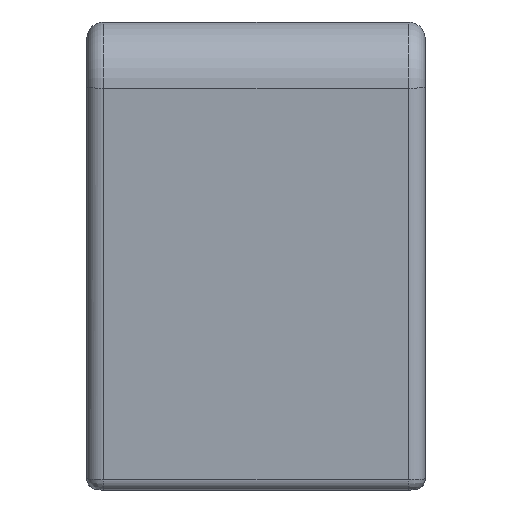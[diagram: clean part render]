
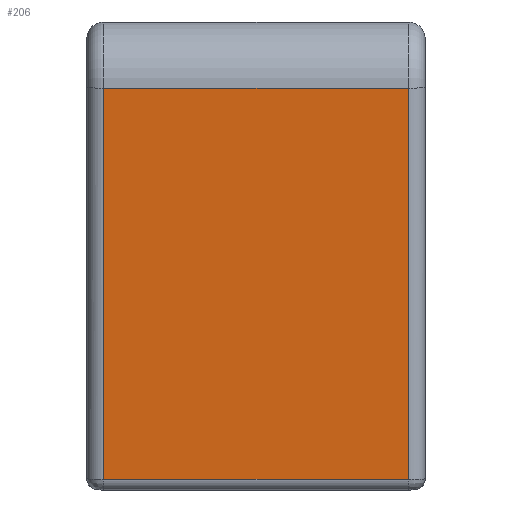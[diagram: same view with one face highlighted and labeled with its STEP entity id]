
A CAD part, left-side view. The second image highlights one B-rep face of the part: STEP entity #206.
In plain terms, the highlighted planar face has unit normal (-0.998, 0, -0.067).
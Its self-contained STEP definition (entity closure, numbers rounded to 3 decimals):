
#116 = AXIS2_PLACEMENT_3D ( 'NONE', #3349, #3346, #3344 ) ;
#206 = ADVANCED_FACE ( 'NONE', ( #1468 ), #3351, .T. ) ;
#530 = EDGE_CURVE ( 'NONE', #4987, #5046, #1870, .T. ) ;
#531 = EDGE_CURVE ( 'NONE', #5046, #4954, #1872, .T. ) ;
#532 = EDGE_CURVE ( 'NONE', #4954, #5007, #1874, .T. ) ;
#533 = EDGE_CURVE ( 'NONE', #4987, #5007, #1876, .T. ) ;
#856 = EDGE_LOOP ( 'NONE', ( #949, #948, #947, #946 ) ) ;
#946 = ORIENTED_EDGE ( 'NONE', *, *, #533, .F. ) ;
#947 = ORIENTED_EDGE ( 'NONE', *, *, #532, .T. ) ;
#948 = ORIENTED_EDGE ( 'NONE', *, *, #531, .T. ) ;
#949 = ORIENTED_EDGE ( 'NONE', *, *, #530, .T. ) ;
#1468 = FACE_OUTER_BOUND ( 'NONE', #856, .T. ) ;
#1870 = LINE ( 'NONE', #1992, #1871 ) ;
#1871 = VECTOR ( 'NONE', #1993, 1000. ) ;
#1872 = LINE ( 'NONE', #1994, #1873 ) ;
#1873 = VECTOR ( 'NONE', #1995, 1000. ) ;
#1874 = LINE ( 'NONE', #1996, #1875 ) ;
#1875 = VECTOR ( 'NONE', #1997, 1000. ) ;
#1876 = LINE ( 'NONE', #1998, #1877 ) ;
#1877 = VECTOR ( 'NONE', #1999, 1000. ) ;
#1992 = CARTESIAN_POINT ( 'NONE',  ( -115., 13.5, -7. ) ) ;
#1993 = DIRECTION ( 'NONE',  ( 0.067, 0., -0.998 ) ) ;
#1994 = CARTESIAN_POINT ( 'NONE',  ( -115.063, 15., -6.067 ) ) ;
#1995 = DIRECTION ( 'NONE',  ( 0., -1., 0. ) ) ;
#1996 = CARTESIAN_POINT ( 'NONE',  ( -117.388, -13.5, 28.632 ) ) ;
#1997 = DIRECTION ( 'NONE',  ( -0.067, 0., 0.998 ) ) ;
#1998 = CARTESIAN_POINT ( 'NONE',  ( -117.388, 15., 28.632 ) ) ;
#1999 = DIRECTION ( 'NONE',  ( 0., -1., 0. ) ) ;
#2302 = CARTESIAN_POINT ( 'NONE',  ( -115.063, -13.5, -6.067 ) ) ;
#2335 = CARTESIAN_POINT ( 'NONE',  ( -117.388, 13.5, 28.632 ) ) ;
#2355 = CARTESIAN_POINT ( 'NONE',  ( -117.388, -13.5, 28.632 ) ) ;
#2394 = CARTESIAN_POINT ( 'NONE',  ( -115.063, 13.5, -6.067 ) ) ;
#3344 = DIRECTION ( 'NONE',  ( -0.067, 0., 0.998 ) ) ;
#3346 = DIRECTION ( 'NONE',  ( -0.998, 0., -0.067 ) ) ;
#3349 = CARTESIAN_POINT ( 'NONE',  ( -115., 15., -7. ) ) ;
#3351 = PLANE ( 'NONE',  #116 ) ;
#4954 = VERTEX_POINT ( 'NONE', #2302 ) ;
#4987 = VERTEX_POINT ( 'NONE', #2335 ) ;
#5007 = VERTEX_POINT ( 'NONE', #2355 ) ;
#5046 = VERTEX_POINT ( 'NONE', #2394 ) ;
